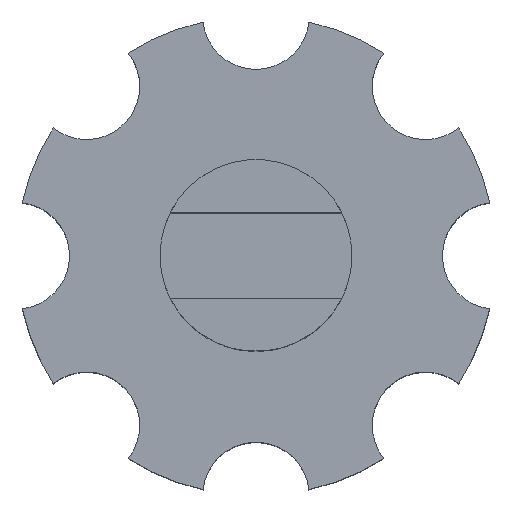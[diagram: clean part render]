
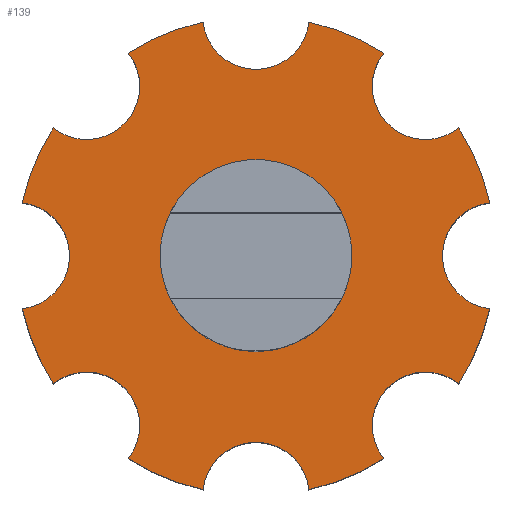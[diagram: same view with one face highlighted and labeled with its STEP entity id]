
A CAD part, top view. The second image highlights one B-rep face of the part: STEP entity #139.
In plain terms, the highlighted planar face has unit normal (0, 0, 1).
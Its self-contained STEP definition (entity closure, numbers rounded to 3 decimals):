
#139=ADVANCED_FACE('',(#337,#339),#341,.F.);
#337=FACE_BOUND('',#338,.T.);
#338=EDGE_LOOP('',(#494,#495,#496,#497,#498,#499,#500,#501,#502,#503,#504,#505,#506,
#507,#508,#509));
#339=FACE_BOUND('',#340,.T.);
#340=EDGE_LOOP('',(#510));
#341=PLANE('',#342);
#342=AXIS2_PLACEMENT_3D('',#343,#344,#345);
#343=CARTESIAN_POINT('',(0.,0.,0.));
#344=DIRECTION('',(-0.,0.,-1.));
#345=DIRECTION('',(-1.,0.,0.));
#494=ORIENTED_EDGE('',*,*,#588,.F.);
#495=ORIENTED_EDGE('',*,*,#610,.T.);
#496=ORIENTED_EDGE('',*,*,#608,.F.);
#497=ORIENTED_EDGE('',*,*,#611,.T.);
#498=ORIENTED_EDGE('',*,*,#606,.F.);
#499=ORIENTED_EDGE('',*,*,#612,.T.);
#500=ORIENTED_EDGE('',*,*,#593,.F.);
#501=ORIENTED_EDGE('',*,*,#613,.T.);
#502=ORIENTED_EDGE('',*,*,#597,.F.);
#503=ORIENTED_EDGE('',*,*,#614,.T.);
#504=ORIENTED_EDGE('',*,*,#599,.F.);
#505=ORIENTED_EDGE('',*,*,#615,.T.);
#506=ORIENTED_EDGE('',*,*,#603,.F.);
#507=ORIENTED_EDGE('',*,*,#616,.T.);
#508=ORIENTED_EDGE('',*,*,#590,.F.);
#509=ORIENTED_EDGE('',*,*,#617,.T.);
#510=ORIENTED_EDGE('',*,*,#618,.T.);
#588=EDGE_CURVE('',#666,#664,#668,.T.);
#590=EDGE_CURVE('',#669,#671,#672,.T.);
#593=EDGE_CURVE('',#674,#676,#677,.T.);
#597=EDGE_CURVE('',#681,#679,#683,.T.);
#599=EDGE_CURVE('',#684,#686,#687,.T.);
#603=EDGE_CURVE('',#691,#689,#693,.T.);
#606=EDGE_CURVE('',#696,#694,#698,.T.);
#608=EDGE_CURVE('',#699,#701,#702,.T.);
#610=EDGE_CURVE('',#666,#701,#704,.T.);
#611=EDGE_CURVE('',#699,#694,#705,.T.);
#612=EDGE_CURVE('',#696,#676,#706,.T.);
#613=EDGE_CURVE('',#674,#679,#707,.T.);
#614=EDGE_CURVE('',#681,#686,#708,.T.);
#615=EDGE_CURVE('',#684,#689,#709,.T.);
#616=EDGE_CURVE('',#691,#671,#710,.T.);
#617=EDGE_CURVE('',#669,#664,#711,.T.);
#618=EDGE_CURVE('',#712,#712,#713,.F.);
#664=VERTEX_POINT('',#816);
#666=VERTEX_POINT('',#820);
#668=CIRCLE('',#824,22.5);
#669=VERTEX_POINT('',#828);
#671=VERTEX_POINT('',#832);
#672=CIRCLE('',#833,22.5);
#674=VERTEX_POINT('',#840);
#676=VERTEX_POINT('',#844);
#677=CIRCLE('',#845,22.5);
#679=VERTEX_POINT('',#852);
#681=VERTEX_POINT('',#856);
#683=CIRCLE('',#860,22.5);
#684=VERTEX_POINT('',#864);
#686=VERTEX_POINT('',#868);
#687=CIRCLE('',#869,22.5);
#689=VERTEX_POINT('',#876);
#691=VERTEX_POINT('',#880);
#693=CIRCLE('',#884,22.5);
#694=VERTEX_POINT('',#888);
#696=VERTEX_POINT('',#892);
#698=CIRCLE('',#896,22.5);
#699=VERTEX_POINT('',#900);
#701=VERTEX_POINT('',#904);
#702=CIRCLE('',#905,22.5);
#704=CIRCLE('',#912,5.);
#705=CIRCLE('',#916,5.);
#706=CIRCLE('',#920,5.);
#707=CIRCLE('',#924,5.);
#708=CIRCLE('',#928,5.);
#709=CIRCLE('',#932,5.);
#710=CIRCLE('',#936,5.);
#711=CIRCLE('',#940,5.);
#712=VERTEX_POINT('',#944);
#713=CIRCLE('',#945,9.);
#816=CARTESIAN_POINT('',(21.944,4.969,0.));
#820=CARTESIAN_POINT('',(19.031,12.003,0.));
#824=AXIS2_PLACEMENT_3D('',#825,#826,#827);
#825=CARTESIAN_POINT('',(0.,0.,0.));
#826=DIRECTION('',(0.,0.,-1.));
#827=DIRECTION('',(0.846,0.533,0.));
#828=CARTESIAN_POINT('',(21.944,-4.969,0.));
#832=CARTESIAN_POINT('',(19.031,-12.003,0.));
#833=AXIS2_PLACEMENT_3D('',#834,#835,#836);
#834=CARTESIAN_POINT('',(0.,0.,0.));
#835=DIRECTION('',(0.,0.,-1.));
#836=DIRECTION('',(0.975,-0.221,0.));
#840=CARTESIAN_POINT('',(-21.944,4.969,0.));
#844=CARTESIAN_POINT('',(-19.031,12.003,0.));
#845=AXIS2_PLACEMENT_3D('',#846,#847,#848);
#846=CARTESIAN_POINT('',(0.,0.,0.));
#847=DIRECTION('',(0.,0.,-1.));
#848=DIRECTION('',(-0.975,0.221,0.));
#852=CARTESIAN_POINT('',(-21.944,-4.969,0.));
#856=CARTESIAN_POINT('',(-19.031,-12.003,0.));
#860=AXIS2_PLACEMENT_3D('',#861,#862,#863);
#861=CARTESIAN_POINT('',(0.,0.,0.));
#862=DIRECTION('',(0.,0.,-1.));
#863=DIRECTION('',(-0.846,-0.533,0.));
#864=CARTESIAN_POINT('',(-4.969,-21.944,0.));
#868=CARTESIAN_POINT('',(-12.003,-19.031,0.));
#869=AXIS2_PLACEMENT_3D('',#870,#871,#872);
#870=CARTESIAN_POINT('',(0.,0.,0.));
#871=DIRECTION('',(0.,0.,-1.));
#872=DIRECTION('',(-0.221,-0.975,0.));
#876=CARTESIAN_POINT('',(4.969,-21.944,0.));
#880=CARTESIAN_POINT('',(12.003,-19.031,0.));
#884=AXIS2_PLACEMENT_3D('',#885,#886,#887);
#885=CARTESIAN_POINT('',(0.,0.,0.));
#886=DIRECTION('',(0.,0.,-1.));
#887=DIRECTION('',(0.533,-0.846,0.));
#888=CARTESIAN_POINT('',(-4.969,21.944,0.));
#892=CARTESIAN_POINT('',(-12.003,19.031,0.));
#896=AXIS2_PLACEMENT_3D('',#897,#898,#899);
#897=CARTESIAN_POINT('',(0.,0.,0.));
#898=DIRECTION('',(0.,0.,-1.));
#899=DIRECTION('',(-0.533,0.846,0.));
#900=CARTESIAN_POINT('',(4.969,21.944,0.));
#904=CARTESIAN_POINT('',(12.003,19.031,0.));
#905=AXIS2_PLACEMENT_3D('',#906,#907,#908);
#906=CARTESIAN_POINT('',(0.,0.,0.));
#907=DIRECTION('',(0.,0.,-1.));
#908=DIRECTION('',(0.221,0.975,0.));
#912=AXIS2_PLACEMENT_3D('',#913,#914,#915);
#913=CARTESIAN_POINT('',(15.91,15.91,0.));
#914=DIRECTION('',(-0.,0.,-1.));
#915=DIRECTION('',(0.624,-0.781,0.));
#916=AXIS2_PLACEMENT_3D('',#917,#918,#919);
#917=CARTESIAN_POINT('',(0.,22.5,0.));
#918=DIRECTION('',(-0.,0.,-1.));
#919=DIRECTION('',(0.994,-0.111,0.));
#920=AXIS2_PLACEMENT_3D('',#921,#922,#923);
#921=CARTESIAN_POINT('',(-15.91,15.91,0.));
#922=DIRECTION('',(0.,-0.,-1.));
#923=DIRECTION('',(0.781,0.624,0.));
#924=AXIS2_PLACEMENT_3D('',#925,#926,#927);
#925=CARTESIAN_POINT('',(-22.5,0.,0.));
#926=DIRECTION('',(0.,-0.,-1.));
#927=DIRECTION('',(0.111,0.994,0.));
#928=AXIS2_PLACEMENT_3D('',#929,#930,#931);
#929=CARTESIAN_POINT('',(-15.91,-15.91,0.));
#930=DIRECTION('',(0.,-0.,-1.));
#931=DIRECTION('',(-0.624,0.781,0.));
#932=AXIS2_PLACEMENT_3D('',#933,#934,#935);
#933=CARTESIAN_POINT('',(0.,-22.5,0.));
#934=DIRECTION('',(-0.,0.,-1.));
#935=DIRECTION('',(-0.994,0.111,0.));
#936=AXIS2_PLACEMENT_3D('',#937,#938,#939);
#937=CARTESIAN_POINT('',(15.91,-15.91,0.));
#938=DIRECTION('',(-0.,0.,-1.));
#939=DIRECTION('',(-0.781,-0.624,0.));
#940=AXIS2_PLACEMENT_3D('',#941,#942,#943);
#941=CARTESIAN_POINT('',(22.5,0.,0.));
#942=DIRECTION('',(0.,0.,-1.));
#943=DIRECTION('',(-0.111,-0.994,0.));
#944=CARTESIAN_POINT('',(9.,0.,0.));
#945=AXIS2_PLACEMENT_3D('',#946,#947,#948);
#946=CARTESIAN_POINT('',(0.,0.,0.));
#947=DIRECTION('',(0.,-0.,1.));
#948=DIRECTION('',(1.,0.,-0.));
